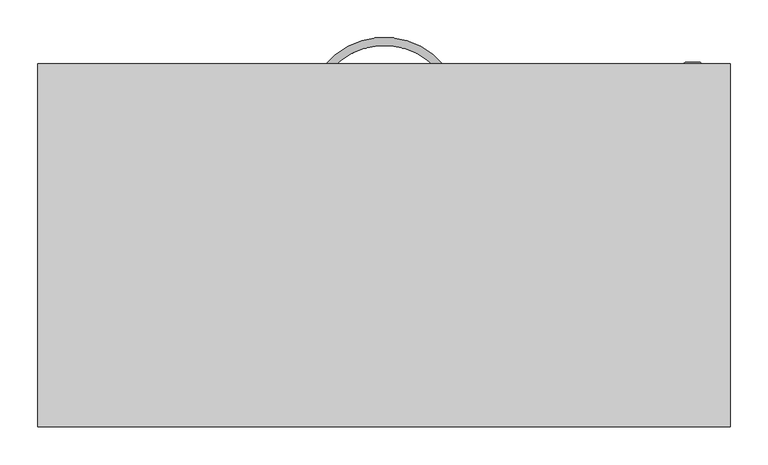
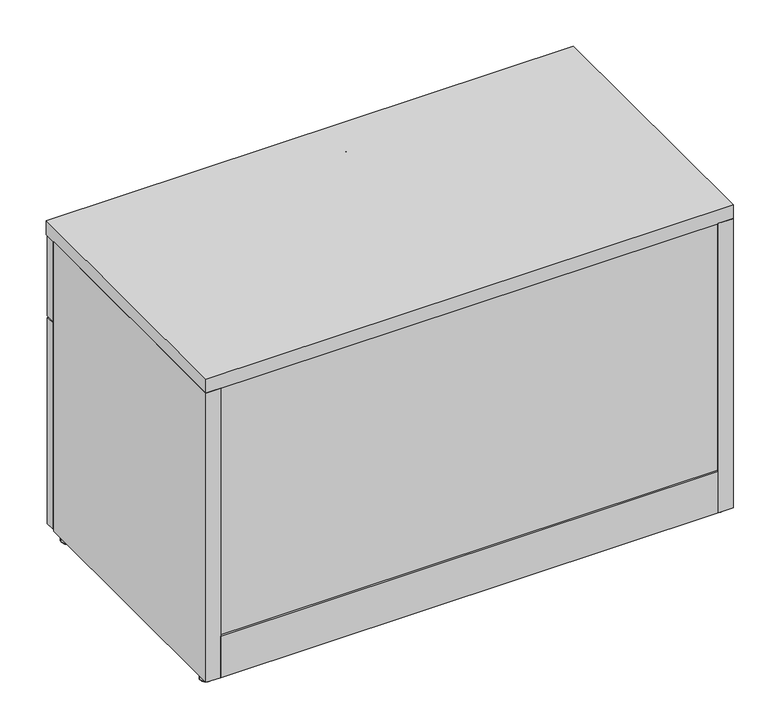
"""IFC4 building model written with IfcOpenShell, lengths in millimetres: furniture geometry, Steelcase - Universal Laminate Enhanced Storage - Low Storage : 1.5 High - Drawer/Drawer - 18 7/8D x 36W."""

from ifc_helpers import new_model, si_unit, point, frame, origin, place, context, project, spatial, polyline, circle_curve, ellipse_curve, trimmed, outline, extrude, source, transform, mapped, element, save
from ifc_brep_helpers import plane_surface, cylinder_surface, revolved_surface, spline_surface, advanced_brep


def furniture_a5cb4bbb(model_context):
    return source(origin(), model_context, "Body", "SolidModel", [
        extrude(outline(polyline([(888.899231, 22.0971219), (25.500769, 22.0971219), (25.500769, 457.3261219), (888.899231, 457.3261219), (888.899231, 22.0971219)])), frame((0.0, 0.0, 362.0144251), z_axis=(0.0, 0.0, 1.0), x_axis=(1.0, 0.0, 0.0)), (0.0, 0.0, 1.0), 25.4),
        advanced_brep(
        [(378.7963228, 477.3447657, 513.8586235), (386.7663502, 470.6216519, 513.8586235), (536.4141029, 477.3447657, 513.8586235), (528.4440755, 470.6216519, 513.8586235)],
        [
            (0, 1, circle_curve(frame((382.7813365, 473.9832088, 513.8586235), z_axis=(-0.6447814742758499, -0.7643669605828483, 0.0), x_axis=(0.7643669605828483, -0.6447814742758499, 0.0)), 5.2134824)),
            (1, 0, circle_curve(frame((382.7813365, 473.9832088, 513.8586235), z_axis=(-0.6447814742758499, -0.7643669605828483, 0.0), x_axis=(0.7643669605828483, -0.6447814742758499, 0.0)), 5.2134824)),
            (2, 3, circle_curve(frame((532.4290892, 473.9832088, 513.8586235), z_axis=(0.6447814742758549, -0.764366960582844, 0.0), x_axis=(-0.764366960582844, -0.6447814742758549, 0.0)), 5.2134824)),
            (3, 2, circle_curve(frame((532.4290892, 473.9832088, 513.8586235), z_axis=(0.6447814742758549, -0.764366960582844, 0.0), x_axis=(-0.764366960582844, -0.6447814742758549, 0.0)), 5.2134824)),
            (2, 0, circle_curve(frame((457.6052129, 410.8655549, 513.8586235), z_axis=(0.0, 0.0, 1.0), x_axis=(-0.7643669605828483, 0.6447814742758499, 0.0)), 103.1034753)),
            (1, 3, circle_curve(frame((457.6052129, 410.8655549, 513.8586235), z_axis=(0.0, 0.0, -1.0), x_axis=(-0.7643669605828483, 0.6447814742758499, 0.0)), 92.6765105)),
        ],
        [
            plane_surface(frame((386.2831667, 471.0292412, 513.8586235), z_axis=(-0.64478147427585, -0.7643669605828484, 0.0), x_axis=(0.0, 0.0, 1.0))),
            plane_surface(frame((528.927259, 471.0292412, 513.8586235), z_axis=(0.644781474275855, -0.7643669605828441, 0.0), x_axis=(0.0, 0.0, 1.0))),
            revolved_surface(trimmed(ellipse_curve(frame((382.7813365, 473.9832088, 513.8586235), z_axis=(0.6447814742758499, 0.7643669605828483, 0.0), x_axis=(0.7643669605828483, -0.6447814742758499, 0.0)), 5.2134824, 5.2134824), [point((378.7963228, 477.3447657, 513.8586235))], [point((386.7663502, 470.6216519, 513.8586235))], True, "CARTESIAN"), (457.6052129, 410.8655549, 513.8586235), (0.0, 0.0, 1.0)),
            revolved_surface(trimmed(ellipse_curve(frame((382.7813365, 473.9832088, 513.8586235), z_axis=(0.6447814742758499, 0.7643669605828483, 0.0), x_axis=(0.7643669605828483, -0.6447814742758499, 0.0)), 5.2134824, 5.2134824), [point((386.7663502, 470.6216519, 513.8586235))], [point((378.7963228, 477.3447657, 513.8586235))], True, "CARTESIAN"), (457.6052129, 410.8655549, 513.8586235), (0.0, 0.0, 1.0)),
        ],
        [
            (0, [[1, 2]]),
            (1, [[3, 4]]),
            (2, [[-3, 5, -2, 6]]),
            (3, [[-4, -6, -1, -5]]),
        ],
    ),
        extrude(outline(polyline([(912.876, 479.552), (912.876, 463.0820746), (1.5850353, 463.0820746), (1.5850353, 479.552), (912.876, 479.552)])), frame((0.0, 0.0, 392.1926235), z_axis=(0.0, 0.0, 1.0), x_axis=(1.0, 0.0, 0.0)), (0.0, 0.0, 1.0), 148.844),
        advanced_brep(
        [(855.247853, 481.0763256, 519.001375), (874.551853, 481.0763256, 519.001375), (852.3279567, 479.552, 519.1905487), (877.7279567, 479.552, 519.1905487)],
        [
            (0, 1, circle_curve(frame((864.899853, 481.0763256, 519.001375), z_axis=(0.0, 1.0, 0.0), x_axis=(1.0, 0.0, 0.0)), 9.652)),
            (1, 0, circle_curve(frame((864.899853, 481.0763256, 519.001375), z_axis=(0.0, 1.0, 0.0), x_axis=(1.0, 0.0, 0.0)), 9.652)),
            (2, 3, circle_curve(frame((865.0279567, 479.552, 519.1905487), z_axis=(0.0, -1.0, 0.0), x_axis=(1.0, 0.0, 0.0)), 12.7)),
            (3, 2, circle_curve(frame((865.0279567, 479.552, 519.1905487), z_axis=(0.0, -1.0, 0.0), x_axis=(1.0, 0.0, 0.0)), 12.7)),
            (2, 0),
            (1, 3),
        ],
        [
            plane_surface(frame((864.899853, 481.0763256, 519.001375), z_axis=(0.0, 1.0, 0.0), x_axis=(0.0, 0.0, -1.0))),
            plane_surface(frame((865.0279567, 479.552, 519.1905487), z_axis=(0.0, -1.0, 0.0), x_axis=(0.0, 0.0, -1.0))),
            spline_surface(1, 2, [[(852.3279567, 479.552, 519.1905487), (852.3279567, 479.552, 506.4905487), (865.0279567, 479.552, 506.4905487), (877.7279567, 479.552, 506.4905487), (877.7279567, 479.552, 519.1905487)], [(855.247853, 481.0763256, 519.001375), (855.247853, 481.0763256, 509.349375), (864.899853, 481.0763256, 509.349375), (874.551853, 481.0763256, 509.349375), (874.551853, 481.0763256, 519.001375)]], [2, 2], [3, 2, 3], [0.0, 1.0], [0.0, 1.0, 2.0], weights=[[1.0, 0.7071067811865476, 1.0, 0.7071067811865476, 1.0], [1.0, 0.7071067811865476, 1.0, 0.7071067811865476, 1.0]]),
            spline_surface(1, 2, [[(877.7279567, 479.552, 519.1905487), (877.7279567, 479.552, 531.8905487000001), (865.0279567, 479.552, 531.8905487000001), (852.3279567, 479.552, 531.8905487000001), (852.3279567, 479.552, 519.1905487)], [(874.551853, 481.0763256, 519.001375), (874.551853, 481.0763256, 528.6533750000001), (864.899853, 481.0763256, 528.6533750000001), (855.247853, 481.0763256, 528.6533750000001), (855.247853, 481.0763256, 519.001375)]], [2, 2], [3, 2, 3], [0.0, 1.0], [0.0, 1.0, 2.0], weights=[[1.0, 0.7071067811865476, 1.0, 0.7071067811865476, 1.0], [1.0, 0.7071067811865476, 1.0, 0.7071067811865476, 1.0]]),
        ],
        [
            (0, [[1, 2]]),
            (1, [[3, 4]]),
            (2, [[5, -2, 6, -3]]),
            (3, [[-6, -1, -5, -4]]),
        ],
    ),
        advanced_brep(
        [(378.7963228, 477.3447657, 362.0144251), (386.7663502, 470.6216519, 362.0144251), (536.4141029, 477.3447657, 362.0144251), (528.4440755, 470.6216519, 362.0144251)],
        [
            (0, 1, circle_curve(frame((382.7813365, 473.9832088, 362.0144251), z_axis=(-0.6447814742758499, -0.7643669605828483, 0.0), x_axis=(0.7643669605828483, -0.6447814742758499, 0.0)), 5.2134824)),
            (1, 0, circle_curve(frame((382.7813365, 473.9832088, 362.0144251), z_axis=(-0.6447814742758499, -0.7643669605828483, 0.0), x_axis=(0.7643669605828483, -0.6447814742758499, 0.0)), 5.2134824)),
            (2, 3, circle_curve(frame((532.4290892, 473.9832088, 362.0144251), z_axis=(0.6447814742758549, -0.764366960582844, 0.0), x_axis=(-0.764366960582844, -0.6447814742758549, 0.0)), 5.2134824)),
            (3, 2, circle_curve(frame((532.4290892, 473.9832088, 362.0144251), z_axis=(0.6447814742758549, -0.764366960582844, 0.0), x_axis=(-0.764366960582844, -0.6447814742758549, 0.0)), 5.2134824)),
            (2, 0, circle_curve(frame((457.6052129, 410.8655549, 362.0144251), z_axis=(0.0, 0.0, 1.0), x_axis=(-0.7643669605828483, 0.6447814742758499, 0.0)), 103.1034753)),
            (1, 3, circle_curve(frame((457.6052129, 410.8655549, 362.0144251), z_axis=(0.0, 0.0, -1.0), x_axis=(-0.7643669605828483, 0.6447814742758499, 0.0)), 92.6765105)),
        ],
        [
            plane_surface(frame((386.2831667, 471.0292412, 362.0144251), z_axis=(-0.64478147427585, -0.7643669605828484, 0.0), x_axis=(0.0, 0.0, 1.0))),
            plane_surface(frame((528.927259, 471.0292412, 362.0144251), z_axis=(0.644781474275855, -0.7643669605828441, 0.0), x_axis=(0.0, 0.0, 1.0))),
            revolved_surface(trimmed(ellipse_curve(frame((382.7813365, 473.9832088, 362.0144251), z_axis=(0.6447814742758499, 0.7643669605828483, 0.0), x_axis=(0.7643669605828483, -0.6447814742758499, 0.0)), 5.2134824, 5.2134824), [point((378.7963228, 477.3447657, 362.0144251))], [point((386.7663502, 470.6216519, 362.0144251))], True, "CARTESIAN"), (457.6052129, 410.8655549, 362.0144251), (0.0, 0.0, 1.0)),
            revolved_surface(trimmed(ellipse_curve(frame((382.7813365, 473.9832088, 362.0144251), z_axis=(0.6447814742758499, 0.7643669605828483, 0.0), x_axis=(0.7643669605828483, -0.6447814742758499, 0.0)), 5.2134824, 5.2134824), [point((386.7663502, 470.6216519, 362.0144251))], [point((378.7963228, 477.3447657, 362.0144251))], True, "CARTESIAN"), (457.6052129, 410.8655549, 362.0144251), (0.0, 0.0, 1.0)),
        ],
        [
            (0, [[1, 2]]),
            (1, [[3, 4]]),
            (2, [[-3, 5, -2, 6]]),
            (3, [[-4, -6, -1, -5]]),
        ],
    ),
        advanced_brep(
        [(4.4898161, 438.2761219, 0.0), (12.7, 438.2761219, 0.0), (20.9101839, 438.2761219, 0.0), (2.4325396, 438.2761219, 2.0572766), (22.9674604, 438.2761219, 2.0572766), (2.4325396, 438.2761219, 11.43), (22.9674604, 438.2761219, 11.43), (12.7, 438.2761219, 11.43)],
        [
            (0, 1),
            (1, 2),
            (2, 0, circle_curve(frame((12.7, 438.2761219, 0.0), z_axis=(0.0, 0.0, -1.0), x_axis=(1.0, 0.0, 0.0)), 8.2101839)),
            (0, 2, circle_curve(frame((12.7, 438.2761219, 0.0), z_axis=(0.0, 0.0, -1.0), x_axis=(1.0, 0.0, 0.0)), 8.2101839)),
            (3, 0),
            (2, 4),
            (4, 3, circle_curve(frame((12.7, 438.2761219, 2.0572766), z_axis=(0.0, 0.0, -1.0), x_axis=(1.0, 0.0, 0.0)), 10.2674604)),
            (3, 4, circle_curve(frame((12.7, 438.2761219, 2.0572766), z_axis=(0.0, 0.0, -1.0), x_axis=(1.0, 0.0, 0.0)), 10.2674604)),
            (5, 3),
            (4, 6),
            (6, 5, circle_curve(frame((12.7, 438.2761219, 11.43), z_axis=(0.0, 0.0, -1.0), x_axis=(1.0, 0.0, 0.0)), 10.2674604)),
            (5, 6, circle_curve(frame((12.7, 438.2761219, 11.43), z_axis=(0.0, 0.0, -1.0), x_axis=(1.0, 0.0, 0.0)), 10.2674604)),
            (7, 5),
            (6, 7),
        ],
        [
            plane_surface(frame((12.7, 438.2761219, 0.0), z_axis=(0.0, 0.0, -1.0), x_axis=(1.0, 0.0, 0.0))),
            revolved_surface(polyline([(20.9101839, 438.2761219, 0.0), (22.9674604, 438.2761219, 2.0572766)]), (12.7, 438.2761219, 11.43), (0.0, 0.0, 1.0)),
            cylinder_surface(frame((12.7, 438.2761219, 11.43), z_axis=(0.0, 0.0, 1.0), x_axis=(1.0, 0.0, 0.0)), 10.2674604),
            plane_surface(frame((12.7, 438.2761219, 11.43), z_axis=(0.0, 0.0, 1.0), x_axis=(1.0, 0.0, 0.0))),
        ],
        [
            (0, [[1, 2, 3]]),
            (0, [[-2, -1, 4]]),
            (1, [[5, -3, 6, 7]]),
            (1, [[-6, -4, -5, 8]]),
            (2, [[9, -7, 10, 11]]),
            (2, [[-10, -8, -9, 12]]),
            (3, [[13, -11, 14]]),
            (3, [[-14, -12, -13]]),
        ],
    ),
        advanced_brep(
        [(12.7, 22.0971219, 11.43), (2.4325396, 22.0971219, 11.43), (22.9674604, 22.0971219, 11.43), (4.4898161, 22.0971219, 0.0), (12.7, 22.0971219, 0.0), (20.9101839, 22.0971219, 0.0), (2.4325396, 22.0971219, 2.0572766), (22.9674604, 22.0971219, 2.0572766)],
        [
            (0, 1),
            (1, 2, circle_curve(frame((12.7, 22.0971219, 11.43), z_axis=(0.0, 0.0, 1.0), x_axis=(1.0, 0.0, 0.0)), 10.2674604)),
            (2, 0),
            (2, 1, circle_curve(frame((12.7, 22.0971219, 11.43), z_axis=(0.0, 0.0, 1.0), x_axis=(1.0, 0.0, 0.0)), 10.2674604)),
            (3, 4),
            (4, 5),
            (5, 3, circle_curve(frame((12.7, 22.0971219, 0.0), z_axis=(0.0, 0.0, -1.0), x_axis=(1.0, 0.0, 0.0)), 8.2101839)),
            (3, 5, circle_curve(frame((12.7, 22.0971219, 0.0), z_axis=(0.0, 0.0, -1.0), x_axis=(1.0, 0.0, 0.0)), 8.2101839)),
            (6, 3),
            (5, 7),
            (7, 6, circle_curve(frame((12.7, 22.0971219, 2.0572766), z_axis=(0.0, 0.0, -1.0), x_axis=(1.0, 0.0, 0.0)), 10.2674604)),
            (6, 7, circle_curve(frame((12.7, 22.0971219, 2.0572766), z_axis=(0.0, 0.0, -1.0), x_axis=(1.0, 0.0, 0.0)), 10.2674604)),
            (1, 6),
            (7, 2),
        ],
        [
            plane_surface(frame((12.7, 22.0971219, 11.43), z_axis=(0.0, 0.0, 1.0), x_axis=(1.0, 0.0, 0.0))),
            plane_surface(frame((12.7, 22.0971219, 0.0), z_axis=(0.0, 0.0, -1.0), x_axis=(1.0, 0.0, 0.0))),
            revolved_surface(polyline([(20.9101839, 22.0971219, 0.0), (22.9674604, 22.0971219, 2.0572766)]), (12.7, 22.0971219, 24.13), (0.0, 0.0, 1.0)),
            cylinder_surface(frame((12.7, 22.0971219, 24.13), z_axis=(0.0, 0.0, 1.0), x_axis=(1.0, 0.0, 0.0)), 10.2674604),
        ],
        [
            (0, [[1, 2, 3]]),
            (0, [[-3, 4, -1]]),
            (1, [[5, 6, 7]]),
            (1, [[-6, -5, 8]]),
            (2, [[9, -7, 10, 11]]),
            (2, [[-10, -8, -9, 12]]),
            (3, [[13, -11, 14, -2]]),
            (3, [[-14, -12, -13, -4]]),
        ],
    ),
        extrude(outline(polyline([(888.899231, 3.1206157), (25.500769, 3.1206157), (25.500769, 28.6213848), (888.899231, 28.6213848), (888.899231, 3.1206157)])), frame((0.0, 0.0, 11.43), z_axis=(0.0, 0.0, 1.0), x_axis=(1.0, 0.0, 0.0)), (0.0, 0.0, 1.0), 530.352),
        extrude(outline(polyline([(25.500769, 0.0), (0.0, 0.0), (0.0, 457.3261219), (25.500769, 457.3261219), (25.500769, 0.0)])), frame((0.0, 0.0, 11.43), z_axis=(0.0, 0.0, 1.0), x_axis=(1.0, 0.0, 0.0)), (0.0, 0.0, 1.0), 530.352),
        extrude(outline(polyline([(888.899231, 0.0), (888.899231, 457.3261219), (914.4, 457.3261219), (914.4, 0.0), (888.899231, 0.0)])), frame((0.0, 0.0, 11.43), z_axis=(0.0, 0.0, 1.0), x_axis=(1.0, 0.0, 0.0)), (0.0, 0.0, 1.0), 530.352),
        extrude(outline(polyline([(912.876, 479.552), (912.876, 463.0820746), (1.5850353, 463.0820746), (1.5850353, 479.552), (912.876, 479.552)])), frame((0.0, 0.0, 11.43), z_axis=(0.0, 0.0, 1.0), x_axis=(1.0, 0.0, 0.0)), (0.0, 0.0, 1.0), 377.7624251),
        advanced_brep(
        [(911.9674604, 22.0971219, 2.0572766), (911.9674604, 22.0971219, 11.43), (891.4325396, 22.0971219, 11.43), (891.4325396, 22.0971219, 2.0572766), (909.9101839, 22.0971219, 0.0), (893.4898161, 22.0971219, 0.0), (901.7, 22.0971219, 0.0), (901.7, 22.0971219, 11.43)],
        [
            (0, 1),
            (1, 2, circle_curve(frame((901.7, 22.0971219, 11.43), z_axis=(0.0, 0.0, -1.0), x_axis=(-1.0, 0.0, 0.0)), 10.2674604)),
            (2, 3),
            (3, 0, circle_curve(frame((901.7, 22.0971219, 2.0572766), z_axis=(0.0, 0.0, 1.0), x_axis=(-1.0, 0.0, 0.0)), 10.2674604)),
            (2, 1, circle_curve(frame((901.7, 22.0971219, 11.43), z_axis=(0.0, 0.0, -1.0), x_axis=(-1.0, 0.0, 0.0)), 10.2674604)),
            (0, 3, circle_curve(frame((901.7, 22.0971219, 2.0572766), z_axis=(0.0, 0.0, 1.0), x_axis=(-1.0, 0.0, 0.0)), 10.2674604)),
            (4, 0),
            (3, 5),
            (5, 4, circle_curve(frame((901.7, 22.0971219, 0.0), z_axis=(0.0, 0.0, 1.0), x_axis=(-1.0, 0.0, 0.0)), 8.2101839)),
            (4, 5, circle_curve(frame((901.7, 22.0971219, 0.0), z_axis=(0.0, 0.0, 1.0), x_axis=(-1.0, 0.0, 0.0)), 8.2101839)),
            (6, 4),
            (5, 6),
            (1, 7),
            (7, 2),
        ],
        [
            cylinder_surface(frame((901.7, 22.0971219, 24.13), z_axis=(0.0, 0.0, -1.0), x_axis=(-1.0, 0.0, 0.0)), 10.2674604),
            revolved_surface(polyline([(891.4325396, 22.0971219, 2.0572766), (893.4898161, 22.0971219, 0.0)]), (901.7, 22.0971219, 24.13), (0.0, 0.0, -1.0)),
            plane_surface(frame((901.7, 22.0971219, 0.0), z_axis=(0.0, 0.0, -1.0), x_axis=(-1.0, 0.0, 0.0))),
            plane_surface(frame((901.7, 22.0971219, 11.43), z_axis=(0.0, 0.0, 1.0), x_axis=(-1.0, 0.0, 0.0))),
        ],
        [
            (0, [[1, 2, 3, 4]]),
            (0, [[-3, 5, -1, 6]]),
            (1, [[7, -4, 8, 9]]),
            (1, [[-8, -6, -7, 10]]),
            (2, [[11, -9, 12]]),
            (2, [[-12, -10, -11]]),
            (3, [[13, 14, -2]]),
            (3, [[-14, -13, -5]]),
        ],
    ),
        advanced_brep(
        [(911.9674604, 438.2761219, 11.43), (901.7, 438.2761219, 11.43), (891.4325396, 438.2761219, 11.43), (911.9674604, 438.2761219, 2.0572766), (891.4325396, 438.2761219, 2.0572766), (909.9101839, 438.2761219, 0.0), (893.4898161, 438.2761219, 0.0), (901.7, 438.2761219, 0.0)],
        [
            (0, 1),
            (1, 2),
            (2, 0, circle_curve(frame((901.7, 438.2761219, 11.43), z_axis=(0.0, 0.0, 1.0), x_axis=(-1.0, 0.0, 0.0)), 10.2674604)),
            (0, 2, circle_curve(frame((901.7, 438.2761219, 11.43), z_axis=(0.0, 0.0, 1.0), x_axis=(-1.0, 0.0, 0.0)), 10.2674604)),
            (3, 0),
            (2, 4),
            (4, 3, circle_curve(frame((901.7, 438.2761219, 2.0572766), z_axis=(0.0, 0.0, 1.0), x_axis=(-1.0, 0.0, 0.0)), 10.2674604)),
            (3, 4, circle_curve(frame((901.7, 438.2761219, 2.0572766), z_axis=(0.0, 0.0, 1.0), x_axis=(-1.0, 0.0, 0.0)), 10.2674604)),
            (5, 3),
            (4, 6),
            (6, 5, circle_curve(frame((901.7, 438.2761219, 0.0), z_axis=(0.0, 0.0, 1.0), x_axis=(-1.0, 0.0, 0.0)), 8.2101839)),
            (5, 6, circle_curve(frame((901.7, 438.2761219, 0.0), z_axis=(0.0, 0.0, 1.0), x_axis=(-1.0, 0.0, 0.0)), 8.2101839)),
            (7, 5),
            (6, 7),
        ],
        [
            plane_surface(frame((901.7, 438.2761219, 11.43), z_axis=(0.0, 0.0, 1.0), x_axis=(-1.0, 0.0, 0.0))),
            cylinder_surface(frame((901.7, 438.2761219, 11.43), z_axis=(0.0, 0.0, -1.0), x_axis=(-1.0, 0.0, 0.0)), 10.2674604),
            revolved_surface(polyline([(891.4325396, 438.2761219, 2.0572766), (893.4898161, 438.2761219, 0.0)]), (901.7, 438.2761219, 11.43), (0.0, 0.0, -1.0)),
            plane_surface(frame((901.7, 438.2761219, 0.0), z_axis=(0.0, 0.0, -1.0), x_axis=(-1.0, 0.0, 0.0))),
        ],
        [
            (0, [[1, 2, 3]]),
            (0, [[-2, -1, 4]]),
            (1, [[5, -3, 6, 7]]),
            (1, [[-6, -4, -5, 8]]),
            (2, [[9, -7, 10, 11]]),
            (2, [[-10, -8, -9, 12]]),
            (3, [[13, -11, 14]]),
            (3, [[-14, -12, -13]]),
        ],
    ),
        extrude(outline(polyline([(914.4, 0.0), (0.0, 0.0), (0.0, 479.552), (914.4, 479.552), (914.4, 0.0)])), frame((0.0, 0.0, 541.782), z_axis=(0.0, 0.0, 1.0), x_axis=(1.0, 0.0, 0.0)), (0.0, 0.0, 1.0), 25.4),
        extrude(outline(polyline([(888.899231, 0.0), (25.500769, 0.0), (25.500769, 457.3261219), (531.2812889, 457.3261219), (888.899231, 457.3261219), (888.899231, 0.0)])), frame((0.0, 0.0, 11.43), z_axis=(0.0, 0.0, 1.0), x_axis=(1.0, 0.0, 0.0)), (0.0, 0.0, 1.0), 76.2),
    ])


if __name__ == "__main__":
    model = new_model("IFC4")
    model_context = context("Model", 3, world=origin())
    ifc_project = project(units=[si_unit("LENGTHUNIT", "METRE", prefix="MILLI")], contexts=[model_context])
    site = spatial("IfcSite", under=ifc_project)
    building = spatial("IfcBuilding", under=site)
    placement = place(None, origin())
    furniture_shape = furniture_a5cb4bbb(model_context)
    element("IfcFurniture", 1, ObjectType="Steelcase - Universal Laminate Enhanced Storage - Low Storage : 1.5 High - Drawer/Drawer - 18 7/8D x 36W", at=placement, inside=building, context=model_context, shape_type="MappedRepresentation", body=[
        mapped(furniture_shape, transform((0.0, 0.0, 0.0), x_axis=(1.0, 0.0, 0.0), y_axis=(0.0, 1.0, 0.0), z_axis=(0.0, 0.0, 1.0))),
    ])
    save(model, "model.ifc")
